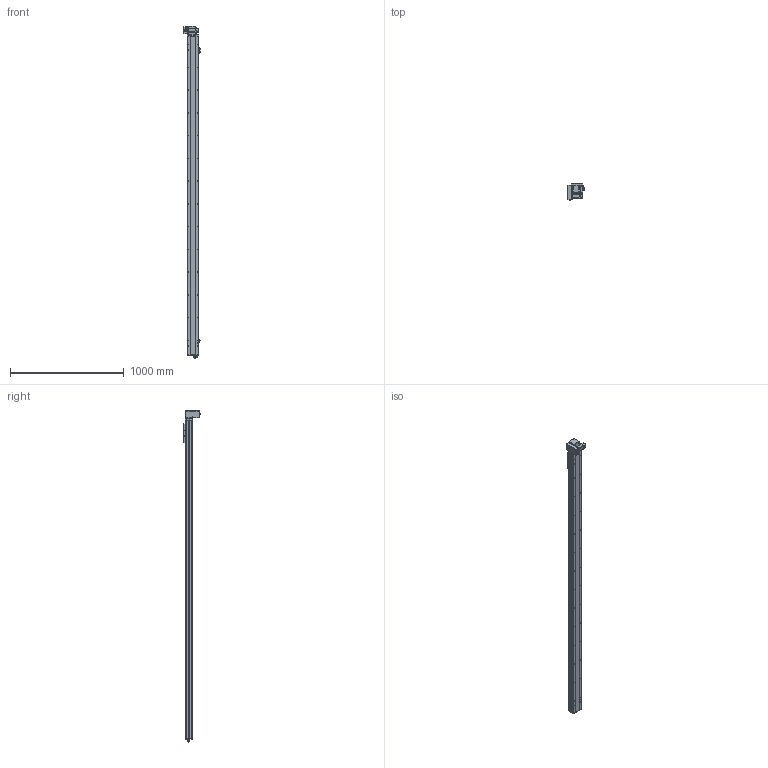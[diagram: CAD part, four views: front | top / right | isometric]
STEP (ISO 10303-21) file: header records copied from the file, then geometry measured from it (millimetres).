
FILE_DESCRIPTION (( 'STEP AP214' ), '1' );
FILE_NAME ('TPE10-L32-2550-LD-T10-C4.STEP', '2023-03-13T05:53:03', ( '' ), ( '' ), 'SwSTEP 2.0', 'SolidWorks 2020', '' );
FILE_SCHEMA (( 'AUTOMOTIVE_DESIGN' ));
Length unit declared in the file: millimetre
Products named in the file (15): 葩璃 PL8-02^TPE10-L32-LD-T10-C4; 葩璃 TPE10-L-002 耜裔ZTMT-102B-04^TPE10-L32-LD-T10-C4; 葩璃 pm-t65-672^TPE10-L32-LD-T10-C4; hexagon head bolts-full thread gb_GB_FASTENER_BOLT_STBAB A M5X16-N; 葩璃 TPF10 詩湍揤啣 TPF10 12^TPE10-L32-LD-T10-C4; 葩璃 詩湍75^TPE10-L32-LD-T10-C4; hex nuts, style 1-grades ab gb_GB_FASTENER_NUT_SNAB1 M3-N; 葩璃 TPE10-L-001 菁釱MZ-102A-01^TPE10-L32-LD-T10-C4; 葩璃 TPE10-007 々湍釱MZ-169x88^TPE10-L32-LD-T10-C4; 葩璃 TPE10 賑雄殤 TPE10^TPE10-L32-LD-T10-C4; 葩璃 侂狟100W^TPE10-L32-LD-T10-C4; 葩璃 TPF10-L-008 耜醱啣^TPE10-L32-LD-T10-C4; TPE10-L32-2550-LD-T10-C4; hexagon socket head cap screws gb_GB_FASTENER_SCREWS_HSHCS M3X6-N; 葩璃 TPT10-L-009 萇儂啣^TPE10-L32-LD-T10-C4_100W
Assembly tree (28 placements, depth 2):
  TPE10-L32-2550-LD-T10-C4
    葩璃 TPE10-L-001 菁釱MZ-102A-01^TPE10-L32-LD-T10-C4
    葩璃 TPE10-L-002 耜裔ZTMT-102B-04^TPE10-L32-LD-T10-C4  x2
    葩璃 詩湍75^TPE10-L32-LD-T10-C4
    葩璃 TPE10-007 々湍釱MZ-169x88^TPE10-L32-LD-T10-C4
    葩璃 TPF10-L-008 耜醱啣^TPE10-L32-LD-T10-C4
    葩璃 TPE10 賑雄殤 TPE10^TPE10-L32-LD-T10-C4
    葩璃 TPF10 詩湍揤啣 TPF10 12^TPE10-L32-LD-T10-C4  x2
    葩璃 TPT10-L-009 萇儂啣^TPE10-L32-LD-T10-C4_100W
    葩璃 pm-t65-672^TPE10-L32-LD-T10-C4  x3
    葩璃 PL8-02^TPE10-L32-LD-T10-C4
    葩璃 侂狟100W^TPE10-L32-LD-T10-C4
    hexagon socket head cap screws gb_GB_FASTENER_SCREWS_HSHCS M3X6-N  x6
    hex nuts, style 1-grades ab gb_GB_FASTENER_NUT_SNAB1 M3-N  x6
    hexagon head bolts-full thread gb_GB_FASTENER_BOLT_STBAB A M5X16-N
Bounding box: 146.2 x 147.15 x 2918.35 mm (x, y, z)
Volume: 8791314.8 mm3; surface area: 2179832.5 mm2
Topology: 36 solids, 36 shells, 1684 faces, 4286 edges, 2684 vertices
Faces by surface type: plane 899, cylinder 521, cone 212, torus 26, bspline 24, sphere 2
Entity records: 39776 total; most frequent: CARTESIAN_POINT 8157, DIRECTION 6236, ORIENTED_EDGE 5968, EDGE_CURVE 2984, AXIS2_PLACEMENT_3D 2213, VERTEX_POINT 1911, VECTOR 1810, LINE 1810
